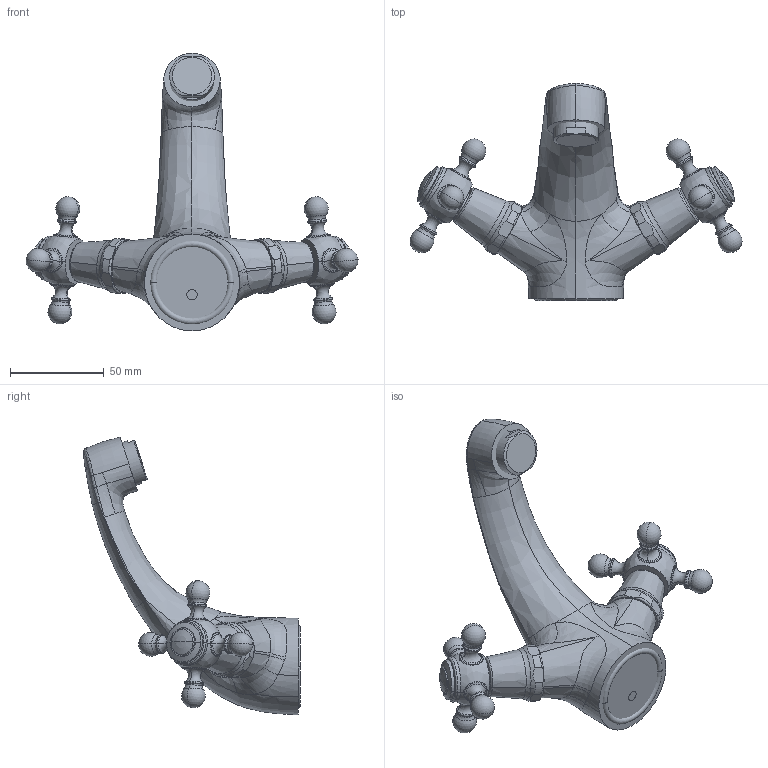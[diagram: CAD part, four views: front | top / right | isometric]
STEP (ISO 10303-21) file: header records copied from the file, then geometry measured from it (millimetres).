
FILE_DESCRIPTION((''),'2;1');
FILE_NAME('37010_SUB01_SW0002','2026-09-10T10:36:20',('clra1'),(''),'CREO PARAMETRIC BY PTC INC, 2022244','CREO PARAMETRIC BY PTC INC, 2022244','');
FILE_SCHEMA(('CONFIG_CONTROL_DESIGN'));
Length unit declared in the file: millimetre
Products named in the file (1): 37010_SUB01_SW0002
Bounding box: 176.88 x 115.53 x 148 mm (x, y, z)
Surface area: 46437.4 mm2 (no closed solid volume)
Topology: 0 solids, 17 shells, 331 faces, 765 edges, 430 vertices
Faces by surface type: torus 134, bspline 100, plane 31, cylinder 28, sphere 20, cone 18
Entity records: 17295 total; most frequent: CARTESIAN_POINT 10419, ORIENTED_EDGE 1454, DIRECTION 1436, EDGE_CURVE 743, AXIS2_PLACEMENT_3D 686, CIRCLE 455, VERTEX_POINT 430, EDGE_LOOP 331
